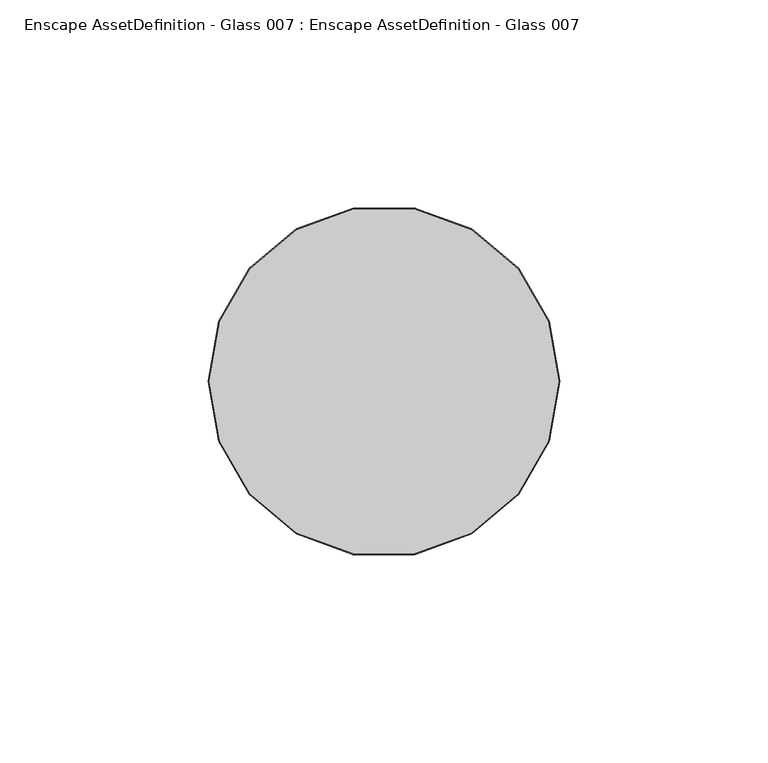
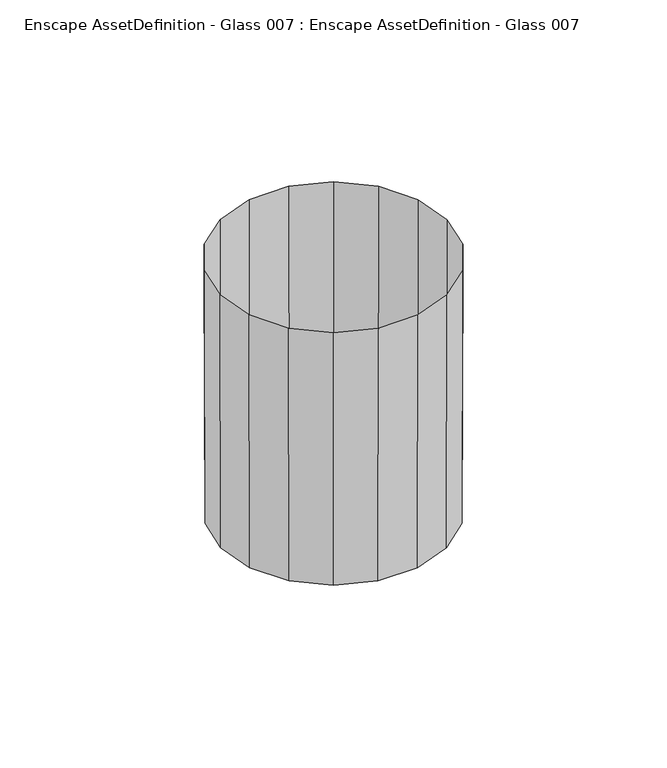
"""IFC4 building model written with IfcOpenShell, lengths in millimetres: geographic element geometry, Enscape AssetDefinition - Glass 007 : Enscape AssetDefinition - Glass 007."""

from ifc_helpers import new_model, si_unit, origin, place, context, project, spatial, triangles, source, transform, mapped, element, save


def enscape_assetdefinition_glass_007_enscape_assetdefinition_f580d953(model_context):
    return source(origin(), model_context, "Body", "Tessellation", [
        triangles([(39.5417498, 14.3922901, 0.1941728), (42.0792811, 0.0, 0.1941728), (0.0, 0.0, 0.0), (7.3070281, 41.4405528, 0.1941728), (-7.3070281, 41.4405528, 0.1941728), (-32.2347239, 27.048265, 0.1941728), (-21.0401538, 36.4421411, 0.1941728), (32.2347239, -27.048265, 0.1941728), (39.5417498, -14.3922901, 0.1941728), (-21.0401538, -36.4421411, 0.1941728), (7.3407526, -41.6316658, 99.6116524), (-7.3070281, -41.4405528, 0.1941728), (7.3070281, -41.4405528, 0.1941728), (21.1372386, -36.609743, 99.6116524), (21.0401538, -36.4421411, 0.1941728), (32.3829094, -27.1729462, 99.6116524), (39.7236609, -14.4587173, 99.6116524), (42.2734553, 0.0, 99.6116524), (39.7236609, 14.4587173, 99.6116524), (32.2347239, 27.048265, 0.1941728), (32.3829094, 27.1729462, 99.6116524), (21.1372386, 36.609743, 99.6116524), (21.0401538, 36.4421411, 0.1941728), (7.3407526, 41.6316658, 99.6116524), (-7.3407526, 41.6316658, 99.6116524), (-21.1372386, 36.609743, 99.6116524), (-32.3829094, 27.1729462, 99.6116524), (-39.5417498, 14.3922901, 0.1941728), (-39.7236609, 14.4587173, 99.6116524), (-42.2734553, 0.0, 99.6116524), (-42.0792811, 0.0, 0.1941728), (-39.7236609, -14.4587173, 99.6116524), (-39.5417498, -14.3922901, 0.1941728), (-32.2347239, -27.048265, 0.1941728), (-32.3829094, -27.1729462, 99.6116524), (-21.1372386, -36.609743, 99.6116524), (-7.3407526, -41.6316658, 99.6116524)], [[37, 36, 10], [34, 10, 36], [36, 35, 34], [33, 34, 35], [35, 32, 33], [31, 33, 32], [32, 30, 31], [28, 31, 30], [30, 29, 28], [6, 28, 29], [29, 27, 6], [7, 6, 27], [27, 26, 7], [5, 7, 26], [26, 25, 5], [4, 5, 25], [25, 24, 4], [23, 4, 24], [24, 22, 23], [20, 23, 22], [22, 21, 20], [1, 20, 21], [21, 19, 1], [1, 19, 18], [18, 2, 1], [9, 2, 18], [18, 17, 9], [8, 9, 17], [17, 16, 8], [15, 8, 16], [16, 14, 15], [13, 15, 14], [14, 11, 13], [12, 13, 11], [11, 37, 12], [10, 12, 37], [3, 2, 9], [3, 9, 8], [3, 8, 15], [3, 15, 13], [3, 13, 12], [3, 12, 10], [3, 10, 34], [3, 34, 33], [3, 33, 31], [3, 31, 28], [3, 28, 6], [3, 6, 7], [3, 7, 5], [3, 5, 4], [3, 4, 23], [3, 23, 20], [3, 20, 1], [3, 1, 2]], closed=False),
    ])


if __name__ == "__main__":
    model = new_model("IFC4")
    model_context = context("Model", 3, world=origin())
    ifc_project = project(units=[si_unit("LENGTHUNIT", "METRE", prefix="MILLI")], contexts=[model_context])
    site = spatial("IfcSite", under=ifc_project)
    building = spatial("IfcBuilding", under=site)
    placement = place(None, origin())
    enscape_assetdefinition_glass_007_enscape_assetdefinition_shape = enscape_assetdefinition_glass_007_enscape_assetdefinition_f580d953(model_context)
    element("IfcGeographicElement", 1, ObjectType="Enscape AssetDefinition - Glass 007 : Enscape AssetDefinition - Glass 007", at=placement, inside=building, context=model_context, shape_type="MappedRepresentation", body=[
        mapped(enscape_assetdefinition_glass_007_enscape_assetdefinition_shape, transform((0.0, 0.0, 0.0), x_axis=(1.0, 0.0, 0.0), y_axis=(0.0, 1.0, 0.0), z_axis=(0.0, 0.0, 1.0))),
    ])
    save(model, "model.ifc")
